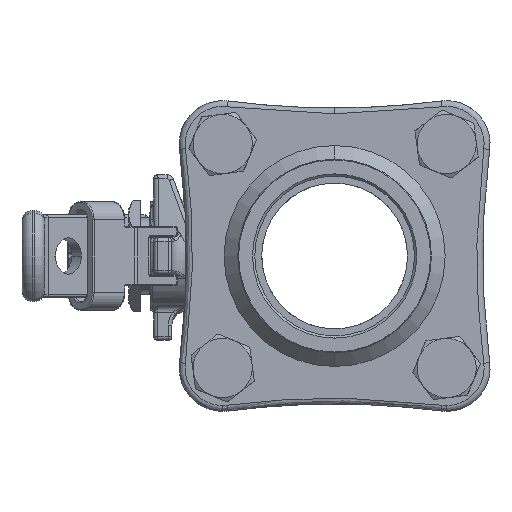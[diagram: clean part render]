
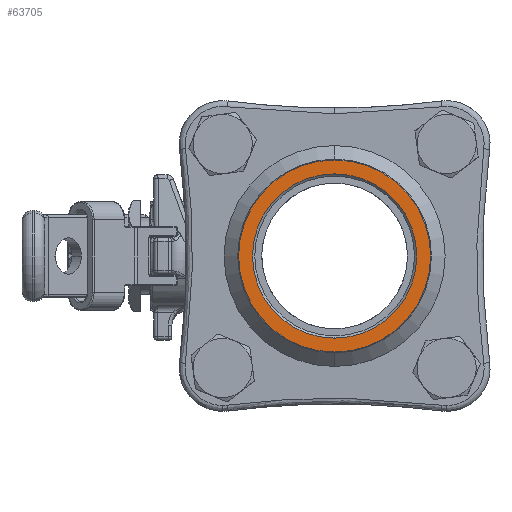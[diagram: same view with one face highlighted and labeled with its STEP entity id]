
A CAD part, left-side view. The second image highlights one B-rep face of the part: STEP entity #63705.
In plain terms, the highlighted planar face has unit normal (-1, 0, 0) as drawn and (0, 0, 1) by its records, which use the part's own axes.
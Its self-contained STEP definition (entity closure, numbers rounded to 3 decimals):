
#5035 = EDGE_LOOP ( 'NONE', ( #57797, #57799 ) ) ;
#5040 = EDGE_LOOP ( 'NONE', ( #57792, #57794 ) ) ;
#8847 = EDGE_CURVE ( 'NONE', #53969, #53971, #62057, .T. ) ;
#8849 = EDGE_CURVE ( 'NONE', #21408, #21410, #62059, .T. ) ;
#9248 = EDGE_CURVE ( 'NONE', #53971, #53969, #62422, .T. ) ;
#13322 = CARTESIAN_POINT ( 'NONE',  ( 0., 0., 30.3 ) ) ;
#13323 = DIRECTION ( 'NONE',  ( 0., 0., 1. ) ) ;
#13324 = DIRECTION ( 'NONE',  ( -1., 0., 0. ) ) ;
#13335 = CARTESIAN_POINT ( 'NONE',  ( 0., 0., 30.3 ) ) ;
#13336 = DIRECTION ( 'NONE',  ( 0., 0., -1. ) ) ;
#13337 = DIRECTION ( 'NONE',  ( -1., 0., 0. ) ) ;
#21408 = VERTEX_POINT ( 'NONE', #23790 ) ;
#21410 = VERTEX_POINT ( 'NONE', #23791 ) ;
#23352 = CARTESIAN_POINT ( 'NONE',  ( 0., 0., 30.3 ) ) ;
#23353 = DIRECTION ( 'NONE',  ( 0., 0., 1. ) ) ;
#23354 = DIRECTION ( 'NONE',  ( -1., 0., 0. ) ) ;
#23790 = CARTESIAN_POINT ( 'NONE',  ( -18.025, 0., 30.3 ) ) ;
#23791 = CARTESIAN_POINT ( 'NONE',  ( 18.025, 0., 30.3 ) ) ;
#29186 = CARTESIAN_POINT ( 'NONE',  ( 0., 0., 30.3 ) ) ;
#29187 = DIRECTION ( 'NONE',  ( 0., 0., -1. ) ) ;
#29188 = DIRECTION ( 'NONE',  ( -1., 0., 0. ) ) ;
#29837 = CARTESIAN_POINT ( 'NONE',  ( -21.077, 0., 30.3 ) ) ;
#29839 = CARTESIAN_POINT ( 'NONE',  ( 21.077, 0., 30.3 ) ) ;
#30148 = CIRCLE ( 'NONE', #61318, 18.025 ) ;
#31088 = FACE_BOUND ( 'NONE', #5040, .T. ) ;
#31096 = FACE_OUTER_BOUND ( 'NONE', #5035, .T. ) ;
#51040 = EDGE_CURVE ( 'NONE', #21410, #21408, #30148, .T. ) ;
#52904 = AXIS2_PLACEMENT_3D ( 'NONE', #13322, #13323, #13324 ) ;
#52905 = AXIS2_PLACEMENT_3D ( 'NONE', #13335, #13336, #13337 ) ;
#53036 = AXIS2_PLACEMENT_3D ( 'NONE', #23352, #23353, #23354 ) ;
#53969 = VERTEX_POINT ( 'NONE', #29837 ) ;
#53971 = VERTEX_POINT ( 'NONE', #29839 ) ;
#57792 = ORIENTED_EDGE ( 'NONE', *, *, #51040, .T. ) ;
#57794 = ORIENTED_EDGE ( 'NONE', *, *, #8849, .T. ) ;
#57797 = ORIENTED_EDGE ( 'NONE', *, *, #9248, .T. ) ;
#57799 = ORIENTED_EDGE ( 'NONE', *, *, #8847, .T. ) ;
#61318 = AXIS2_PLACEMENT_3D ( 'NONE', #29186, #29187, #29188 ) ;
#61970 = AXIS2_PLACEMENT_3D ( 'NONE', #73129, #73139, #73141 ) ;
#62057 = CIRCLE ( 'NONE', #52904, 21.077 ) ;
#62059 = CIRCLE ( 'NONE', #52905, 18.025 ) ;
#62422 = CIRCLE ( 'NONE', #53036, 21.077 ) ;
#63705 = ADVANCED_FACE ( 'NONE', ( #31088, #31096 ), #73135, .F. ) ;
#73129 = CARTESIAN_POINT ( 'NONE',  ( 0., 0., 30.3 ) ) ;
#73135 = PLANE ( 'NONE',  #61970 ) ;
#73139 = DIRECTION ( 'NONE',  ( 0., 0., -1. ) ) ;
#73141 = DIRECTION ( 'NONE',  ( -1., 0., 0. ) ) ;
